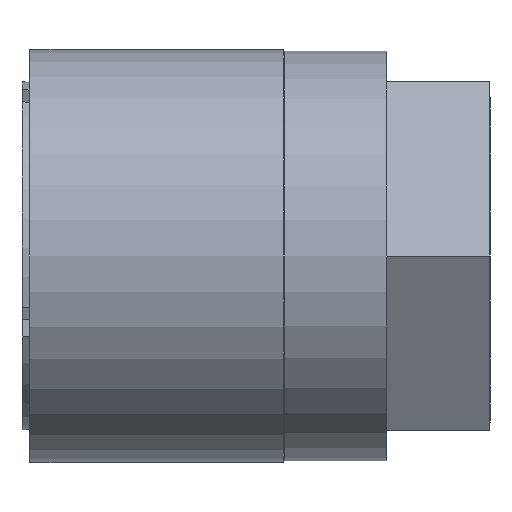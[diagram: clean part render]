
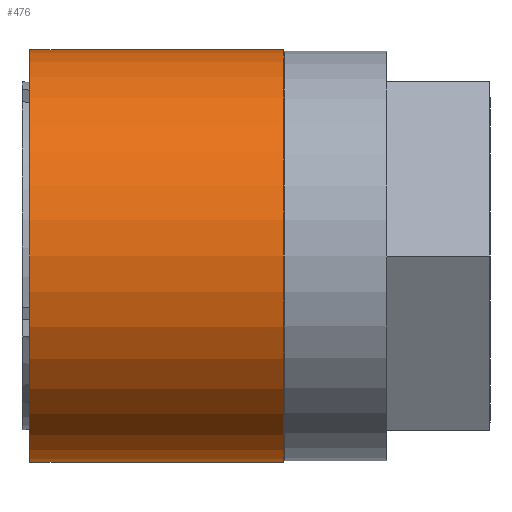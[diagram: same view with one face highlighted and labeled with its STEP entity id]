
A CAD part, front view. The second image highlights one B-rep face of the part: STEP entity #476.
In plain terms, the highlighted cylindrical face has radius 13 mm (diameter 26 mm), a partial arc.
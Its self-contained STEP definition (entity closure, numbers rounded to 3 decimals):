
#134 = FACE_OUTER_BOUND ( 'NONE', #1130, .T. ) ;
#147 = CYLINDRICAL_SURFACE ( 'NONE', #945, 13. ) ;
#363 = CIRCLE ( 'NONE', #874, 13. ) ;
#365 = LINE ( 'NONE', #1339, #367 ) ;
#367 = VECTOR ( 'NONE', #1320, 1000. ) ;
#372 = LINE ( 'NONE', #1311, #373 ) ;
#373 = VECTOR ( 'NONE', #1310, 1000. ) ;
#376 = CIRCLE ( 'NONE', #871, 13. ) ;
#476 = ADVANCED_FACE ( 'NONE', ( #134 ), #147, .T. ) ;
#686 = CARTESIAN_POINT ( 'NONE',  ( 0., 0., 0. ) ) ;
#687 = DIRECTION ( 'NONE',  ( -1., 0., 0. ) ) ;
#723 = DIRECTION ( 'NONE',  ( 0., 0., 1. ) ) ;
#726 = VERTEX_POINT ( 'NONE', #1586 ) ;
#728 = VERTEX_POINT ( 'NONE', #1584 ) ;
#736 = VERTEX_POINT ( 'NONE', #1576 ) ;
#738 = VERTEX_POINT ( 'NONE', #1573 ) ;
#871 = AXIS2_PLACEMENT_3D ( 'NONE', #1321, #1307, #1305 ) ;
#874 = AXIS2_PLACEMENT_3D ( 'NONE', #1336, #1335, #1333 ) ;
#945 = AXIS2_PLACEMENT_3D ( 'NONE', #686, #687, #723 ) ;
#961 = ORIENTED_EDGE ( 'NONE', *, *, #1103, .F. ) ;
#962 = ORIENTED_EDGE ( 'NONE', *, *, #1102, .T. ) ;
#963 = ORIENTED_EDGE ( 'NONE', *, *, #1095, .T. ) ;
#964 = ORIENTED_EDGE ( 'NONE', *, *, #1099, .F. ) ;
#1095 = EDGE_CURVE ( 'NONE', #726, #736, #363, .T. ) ;
#1099 = EDGE_CURVE ( 'NONE', #726, #728, #365, .T. ) ;
#1102 = EDGE_CURVE ( 'NONE', #736, #738, #372, .T. ) ;
#1103 = EDGE_CURVE ( 'NONE', #728, #738, #376, .T. ) ;
#1130 = EDGE_LOOP ( 'NONE', ( #964, #963, #962, #961 ) ) ;
#1305 = DIRECTION ( 'NONE',  ( 0., 0., 1. ) ) ;
#1307 = DIRECTION ( 'NONE',  ( -1., 0., 0. ) ) ;
#1310 = DIRECTION ( 'NONE',  ( -1., 0., 0. ) ) ;
#1311 = CARTESIAN_POINT ( 'NONE',  ( 0., 0., 13. ) ) ;
#1320 = DIRECTION ( 'NONE',  ( -1., 0., 0. ) ) ;
#1321 = CARTESIAN_POINT ( 'NONE',  ( 0.5, 0., 0. ) ) ;
#1333 = DIRECTION ( 'NONE',  ( 0., 0., 1. ) ) ;
#1335 = DIRECTION ( 'NONE',  ( -1., 0., 0. ) ) ;
#1336 = CARTESIAN_POINT ( 'NONE',  ( 16.5, 0., 0. ) ) ;
#1339 = CARTESIAN_POINT ( 'NONE',  ( 0., 0., -13. ) ) ;
#1573 = CARTESIAN_POINT ( 'NONE',  ( 0.5, 0., 13. ) ) ;
#1576 = CARTESIAN_POINT ( 'NONE',  ( 16.5, 0., 13. ) ) ;
#1584 = CARTESIAN_POINT ( 'NONE',  ( 0.5, 0., -13. ) ) ;
#1586 = CARTESIAN_POINT ( 'NONE',  ( 16.5, 0., -13. ) ) ;
